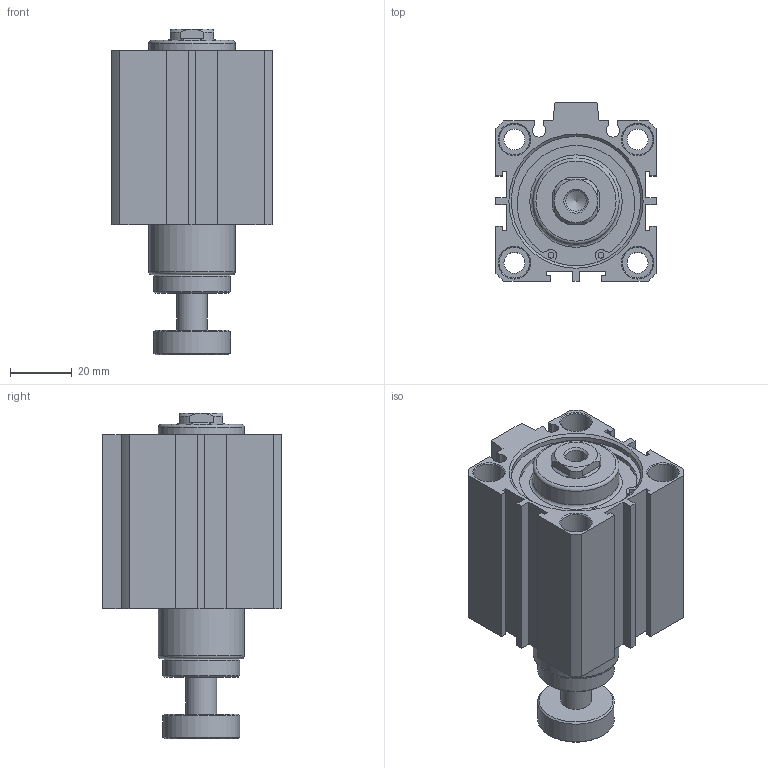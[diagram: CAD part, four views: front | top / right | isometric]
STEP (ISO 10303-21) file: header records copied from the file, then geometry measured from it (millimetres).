
FILE_DESCRIPTION((''),'2;1');
FILE_NAME('I:\3D電子目錄\氣缸\JDAR\JDAR-S\JDAR40-S\JDAR40x20-S.stp','2007-05-05T09:36:26',('662F206'),(''),'Autodesk Inventor 11','Autodesk Inventor 11','');
FILE_SCHEMA(('AUTOMOTIVE_DESIGN { 1 0 10303 214 1 1 1 1 }'));
Length unit declared in the file: millimetre
Products named in the file (3): JDAR40-S; JDAR40; R 形環 42
Assembly tree (3 placements, depth 2):
  JDAR40-S
    JDAR40
    R 形環 42  x2
Bounding box: 52 x 58 x 105.8 mm (x, y, z)
Volume: 148320.4 mm3; surface area: 36413.1 mm2
Topology: 3 solids, 3 shells, 172 faces, 405 edges, 263 vertices
Faces by surface type: plane 92, cylinder 51, cone 23, bspline 4, torus 2
Full cylindrical faces by diameter (mm): 1.9 x4, 2.2 x2, 6.8 x4, 10 x9, 25 x2, 28 x2, 42 x4, 44.5 x2
Entity records: 4475 total; most frequent: CARTESIAN_POINT 858, DIRECTION 758, ORIENTED_EDGE 634, EDGE_CURVE 317, AXIS2_PLACEMENT_3D 287, EDGE_LOOP 248, VERTEX_POINT 237, VECTOR 184
